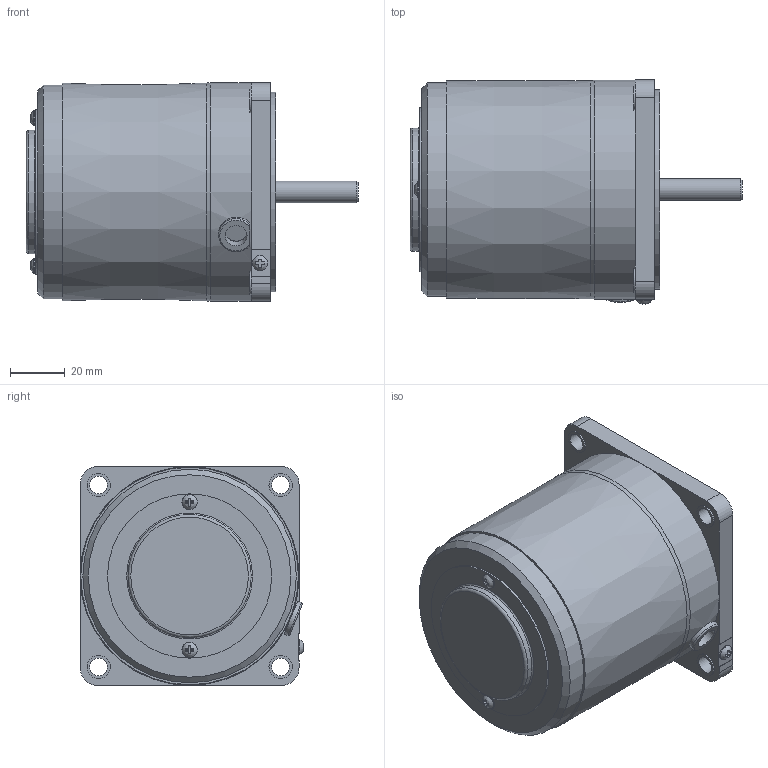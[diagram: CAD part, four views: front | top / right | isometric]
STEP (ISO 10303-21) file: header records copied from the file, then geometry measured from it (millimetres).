
FILE_DESCRIPTION(/* description */ (''),/* implementation_level */ '2;1');
FILE_NAME(/* name */ 'E:\도면작업\2016\0704) 미주향 SG 도면\3D MOTOR\SG6R\SG8R25S\SG8R25S_.stp',/* time_stamp */ '2016-12-12T16:32:37+09:00',/* author */ ('jy-jung'),/* organization */ (''),/* preprocessor_version */ 'ST-DEVELOPER v15.6',/* originating_system */ 'Autodesk Inventor 2015',/* authorisation */ '');
FILE_SCHEMA (('AUTOMOTIVE_DESIGN { 1 0 10303 214 3 1 1 }'));
Length unit declared in the file: millimetre
Products named in the file (1): 부품5
Bounding box: 121.3 x 81.76 x 80 mm (x, y, z)
Volume: 430907.2 mm3; surface area: 41586.6 mm2
Topology: 1 solids, 5 shells, 159 faces, 378 edges, 248 vertices
Faces by surface type: plane 102, cylinder 41, torus 10, bspline 3, cone 3
Full cylindrical faces by diameter (mm): 3 x2, 3.5 x2, 5.6 x3, 6.5 x4, 8 x2, 8.5 x4, 34 x1, 43 x1, 45 x1, 60 x1, 73 x1, 78 x1, 80 x1
Entity records: 4855 total; most frequent: CARTESIAN_POINT 1108, DIRECTION 714, ORIENTED_EDGE 680, EDGE_CURVE 340, AXIS2_PLACEMENT_3D 264, VERTEX_POINT 246, EDGE_LOOP 226, LINE 186
